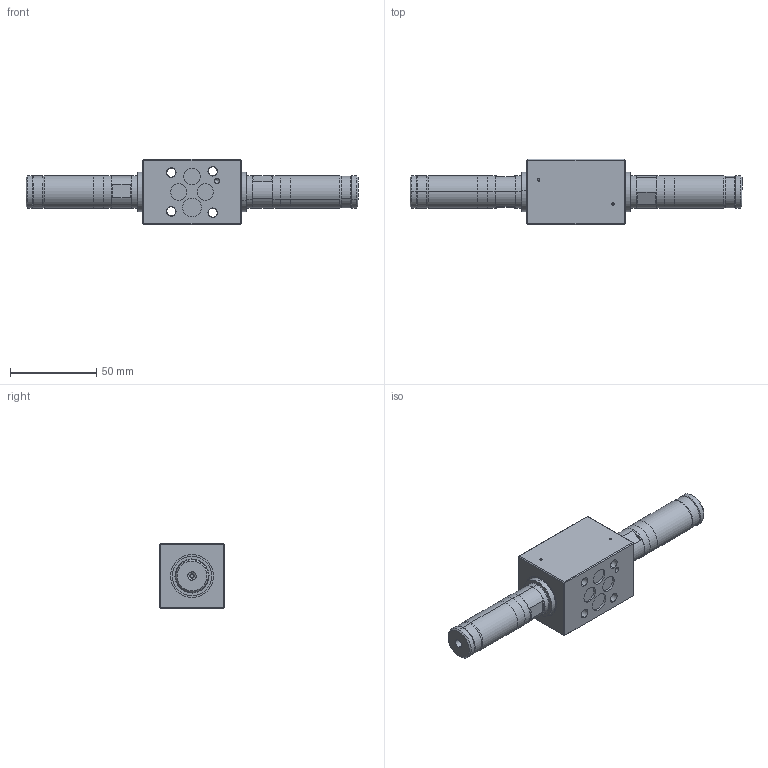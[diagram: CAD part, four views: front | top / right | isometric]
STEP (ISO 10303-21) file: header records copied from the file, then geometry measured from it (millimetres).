
FILE_DESCRIPTION (( 'STEP AP203' ), '1' );
FILE_NAME ('WDPFB04-4_3.step', '2013-07-08T11:39:47', ( 'Wandfluh AG' ), ( 'Wandfluh AG' ), 'SwSTEP 2.0', 'SolidWorks 2012', '' );
FILE_SCHEMA (( 'CONFIG_CONTROL_DESIGN' ));
Length unit declared in the file: millimetre
Products named in the file (1): WDPFB04-4_3
Bounding box: 192.6 x 38 x 38 mm (x, y, z)
Volume: 115599.1 mm3; surface area: 35362.7 mm2
Topology: 11 solids, 11 shells, 1368 faces, 3623 edges, 2329 vertices
Faces by surface type: plane 819, cylinder 396, cone 82, torus 56, bspline 15
Entity records: 43414 total; most frequent: CARTESIAN_POINT 8246, DIRECTION 7705, ORIENTED_EDGE 7226, EDGE_CURVE 3613, AXIS2_PLACEMENT_3D 2768, VERTEX_POINT 2329, VECTOR 2169, LINE 2169
